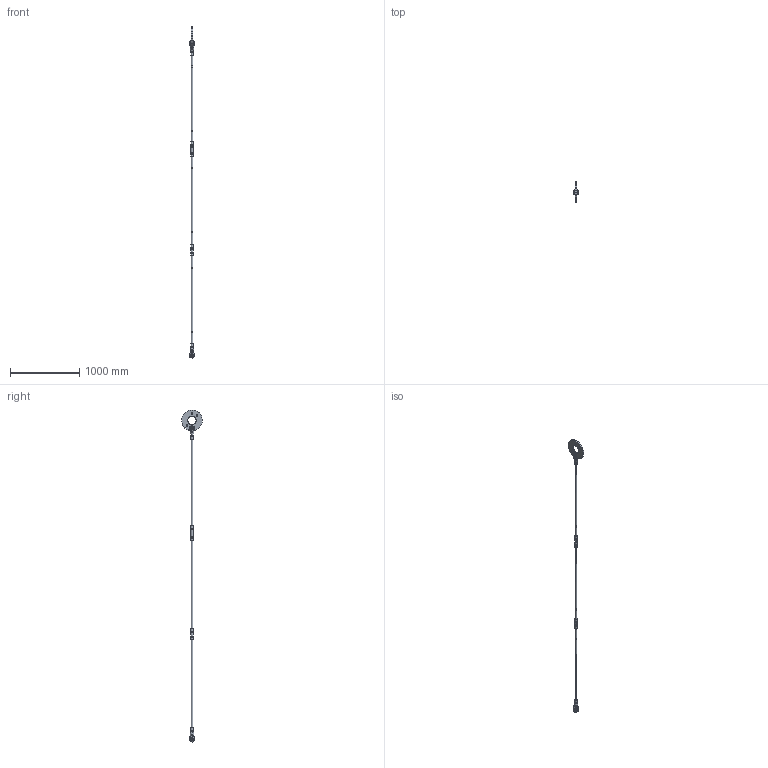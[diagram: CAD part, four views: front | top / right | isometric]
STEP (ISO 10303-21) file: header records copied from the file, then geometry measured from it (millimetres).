
FILE_DESCRIPTION(/* description */ (''),/* implementation_level */ '2;1');
FILE_NAME(/* name */ 'C:\Vault-WS\Anker\Werksnorm\Hochbau\ASDO-System\ASDO-S\System Komplett\Step\M024.stp',/* time_stamp */ '2014-01-30T09:13:19+01:00',/* author */ ('ritgen'),/* organization */ (''),/* preprocessor_version */ 'ST-DEVELOPER v15.2',/* originating_system */ 'Autodesk Inventor 2014',/* authorisation */ '');
FILE_SCHEMA (('AUTOMOTIVE_DESIGN { 1 0 10303 214 3 1 1 }'));
Length unit declared in the file: millimetre
Products named in the file (10): ASDO-005754; ASDO-000256; DIN 471 - 24x1,2 - C67; ASDO-013928; ASDO-001613; ASDO-001320; ASDO-001446; ASDO-006314; ASDO-013969; ASDO-006313
Bounding box: 63.7 x 299.71 x 4783.7 mm (x, y, z)
Volume: 3732791.8 mm3; surface area: 668567.2 mm2
Topology: 18 solids, 18 shells, 437 faces, 946 edges, 585 vertices
Faces by surface type: bspline 144, plane 142, cylinder 79, torus 42, cone 30
Full cylindrical faces by diameter (mm): 2 x4, 5 x18, 20.752 x10, 22.6 x2, 24 x7, 25 x8, 27 x6, 33 x2, 34 x6, 36 x2, 120 x1, 300 x1
Entity records: 13521 total; most frequent: CARTESIAN_POINT 9433, ORIENTED_EDGE 748, DIRECTION 738, EDGE_CURVE 374, AXIS2_PLACEMENT_3D 335, EDGE_LOOP 294, VERTEX_POINT 258, ADVANCED_FACE 200
